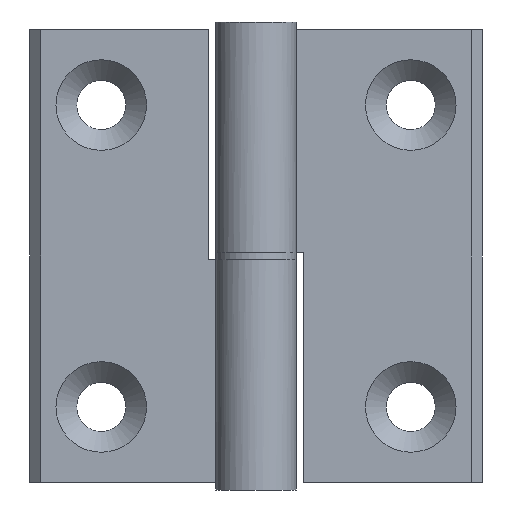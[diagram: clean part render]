
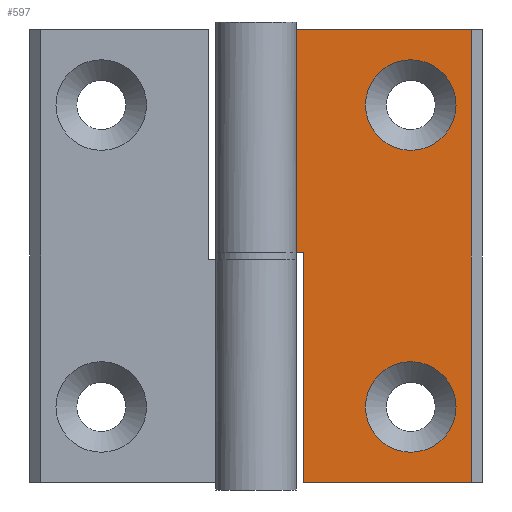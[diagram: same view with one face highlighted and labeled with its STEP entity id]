
A CAD part, front view. The second image highlights one B-rep face of the part: STEP entity #597.
In plain terms, the highlighted planar face has unit normal (0, -1, 0).
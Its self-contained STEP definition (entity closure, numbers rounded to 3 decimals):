
#183=CARTESIAN_POINT('',(11.791,-1.051,10.0));
#184=VERTEX_POINT('',#183);
#185=CARTESIAN_POINT('',(5.791,-1.051,10.0));
#186=DIRECTION('',(0.0,1.0,0.0));
#187=DIRECTION('',(1.0,0.0,0.0));
#188=AXIS2_PLACEMENT_3D('',#185,#186,#187);
#189=CIRCLE('',#188,6.);
#190=EDGE_CURVE('',#184,#184,#189,.T.);
#273=CARTESIAN_POINT('',(11.791,-1.051,50.0));
#274=VERTEX_POINT('',#273);
#275=CARTESIAN_POINT('',(5.791,-1.051,50.0));
#276=DIRECTION('',(0.0,1.0,0.0));
#277=DIRECTION('',(1.0,0.0,0.0));
#278=AXIS2_PLACEMENT_3D('',#275,#276,#277);
#279=CIRCLE('',#278,6.);
#280=EDGE_CURVE('',#274,#274,#279,.T.);
#344=CARTESIAN_POINT('',(-9.371,-1.051,30.5));
#345=VERTEX_POINT('',#344);
#361=CARTESIAN_POINT('',(-8.459,-1.051,30.5));
#362=VERTEX_POINT('',#361);
#369=CARTESIAN_POINT('',(-9.371,-1.051,30.5));
#370=DIRECTION('',(1.0,0.0,0.0));
#371=VECTOR('',#370,0.911);
#372=LINE('',#369,#371);
#373=EDGE_CURVE('',#345,#362,#372,.T.);
#394=CARTESIAN_POINT('',(-8.459,-1.051,0.0));
#395=VERTEX_POINT('',#394);
#396=CARTESIAN_POINT('',(-8.459,-1.051,30.5));
#397=DIRECTION('',(0.0,0.0,-1.0));
#398=VECTOR('',#397,30.5);
#399=LINE('',#396,#398);
#400=EDGE_CURVE('',#362,#395,#399,.T.);
#475=CARTESIAN_POINT('',(-9.371,-1.051,60.0));
#476=VERTEX_POINT('',#475);
#477=CARTESIAN_POINT('',(-9.371,-1.051,30.5));
#478=DIRECTION('',(0.0,0.0,1.0));
#479=VECTOR('',#478,29.5);
#480=LINE('',#477,#479);
#481=EDGE_CURVE('',#345,#476,#480,.T.);
#542=CARTESIAN_POINT('',(13.791,-1.051,60.0));
#543=VERTEX_POINT('',#542);
#550=CARTESIAN_POINT('',(13.791,-1.051,0.0));
#551=VERTEX_POINT('',#550);
#552=CARTESIAN_POINT('',(13.791,-1.051,0.0));
#553=DIRECTION('',(0.0,0.0,1.0));
#554=VECTOR('',#553,60.0);
#555=LINE('',#552,#554);
#556=EDGE_CURVE('',#551,#543,#555,.T.);
#568=CARTESIAN_POINT('',(13.791,-1.051,0.0));
#569=DIRECTION('',(0.0,-1.0,0.0));
#570=DIRECTION('',(0.0,0.0,-1.0));
#571=AXIS2_PLACEMENT_3D('',#568,#569,#570);
#572=PLANE('',#571);
#573=ORIENTED_EDGE('',*,*,#400,.T.);
#574=CARTESIAN_POINT('',(-8.459,-1.051,0.0));
#575=DIRECTION('',(1.0,0.0,0.0));
#576=VECTOR('',#575,22.25);
#577=LINE('',#574,#576);
#578=EDGE_CURVE('',#395,#551,#577,.T.);
#579=ORIENTED_EDGE('',*,*,#578,.T.);
#580=ORIENTED_EDGE('',*,*,#556,.T.);
#581=CARTESIAN_POINT('',(13.791,-1.051,60.0));
#582=DIRECTION('',(-1.0,0.0,0.0));
#583=VECTOR('',#582,23.161);
#584=LINE('',#581,#583);
#585=EDGE_CURVE('',#543,#476,#584,.T.);
#586=ORIENTED_EDGE('',*,*,#585,.T.);
#587=ORIENTED_EDGE('',*,*,#481,.F.);
#588=ORIENTED_EDGE('',*,*,#373,.T.);
#589=EDGE_LOOP('',(#573,#579,#580,#586,#587,#588));
#590=FACE_OUTER_BOUND('',#589,.T.);
#591=ORIENTED_EDGE('',*,*,#190,.T.);
#592=EDGE_LOOP('',(#591));
#593=FACE_BOUND('',#592,.T.);
#594=ORIENTED_EDGE('',*,*,#280,.T.);
#595=EDGE_LOOP('',(#594));
#596=FACE_BOUND('',#595,.T.);
#597=ADVANCED_FACE('',(#590,#593,#596),#572,.T.);
